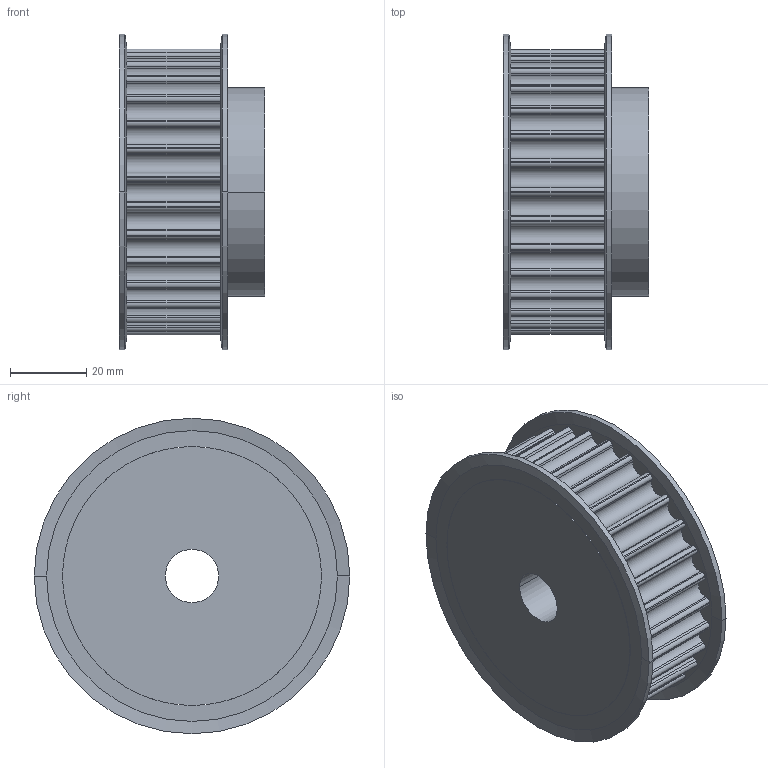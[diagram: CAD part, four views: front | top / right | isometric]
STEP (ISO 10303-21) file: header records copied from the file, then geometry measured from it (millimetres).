
FILE_DESCRIPTION( ( '' ), '1' );
FILE_NAME( 'C:/Users/Stangenbergd/Documents/CAD_Step/1/17411500.stp', '2021-10-19T10:08:40', ( '' ), ( '' ), ' ', ' ', ' ' );
FILE_SCHEMA( ( 'CONFIG_CONTROL_DESIGN' ) );
Length unit declared in the file: millimetre
Products named in the file (1): 1
Bounding box: 38.31 x 83 x 83 mm (x, y, z)
Volume: 132485 mm3; surface area: 26406.3 mm2
Topology: 1 solids, 1 shells, 327 faces, 1192 edges, 752 vertices
Faces by surface type: cylinder 252, plane 67, cone 8
Entity records: 13162 total; most frequent: DIRECTION 2480, ORIENTED_EDGE 2384, CARTESIAN_POINT 2272, EDGE_CURVE 1192, AXIS2_PLACEMENT_3D 960, VERTEX_POINT 752, CIRCLE 632, LINE 560
